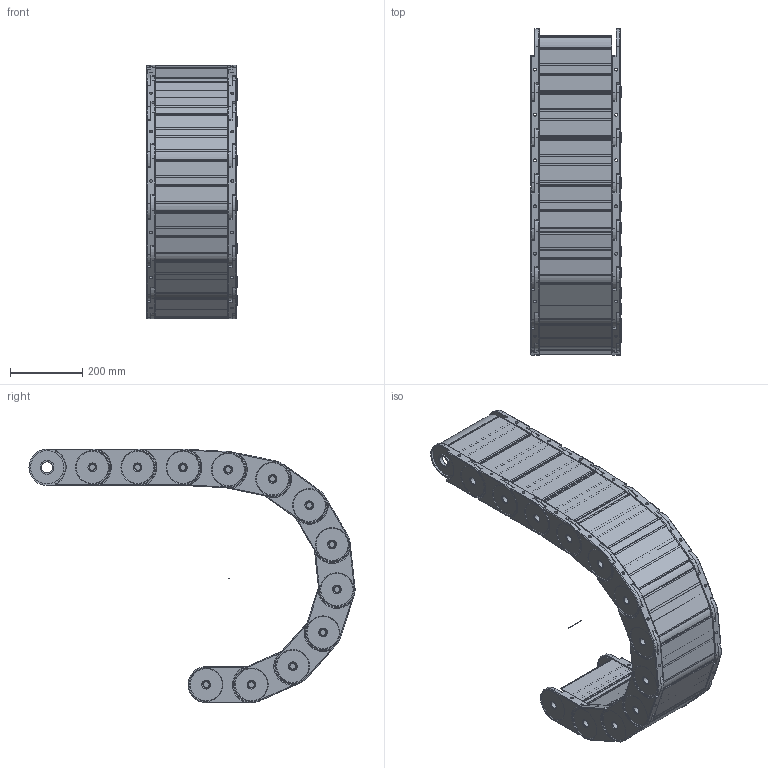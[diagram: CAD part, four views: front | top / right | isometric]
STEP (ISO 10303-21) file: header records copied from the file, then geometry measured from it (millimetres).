
FILE_DESCRIPTION((''),'2;1');
FILE_NAME('C:\Uebbing\TRACE PARTS\PLE\PLE 525\PLE 525 vereinfacht.stp','2013-06-04T09:26:30',('Uebbing'),(''),'Autodesk Inventor 10','Autodesk Inventor 10','');
FILE_SCHEMA(('AUTOMOTIVE_DESIGN { 1 0 10303 214 1 1 1 1 }'));
Length unit declared in the file: millimetre
Products named in the file (6): PLE 525 vereinfacht; PLE 525 Glied vereinfacht; PLE 520 Lasche vereinfacht; PLE 525 ASA PARAMETRISCH; PLE 525 ASI PARAMETRISCH; Achse
Assembly tree (17 placements, depth 3):
  PLE 525 vereinfacht
    PLE 525 Glied vereinfacht  x12
      PLE 520 Lasche vereinfacht
      PLE 525 ASA PARAMETRISCH
      PLE 525 ASI PARAMETRISCH
    Achse
Bounding box: 250.5 x 900.18 x 700 mm (x, y, z)
Volume: 6906609.6 mm3; surface area: 3255755.4 mm2
Topology: 49 solids, 49 shells, 2511 faces, 6328 edges, 4107 vertices
Faces by surface type: cylinder 1237, plane 962, torus 144, bspline 120, cone 48
Full cylindrical faces by diameter (mm): 1 x1, 8 x24, 20 x24, 30 x24, 30.1 x24, 38 x48, 92 x48
Entity records: 5537 total; most frequent: CARTESIAN_POINT 1109, DIRECTION 971, ORIENTED_EDGE 836, EDGE_CURVE 418, AXIS2_PLACEMENT_3D 370, VERTEX_POINT 283, VECTOR 231, LINE 231
